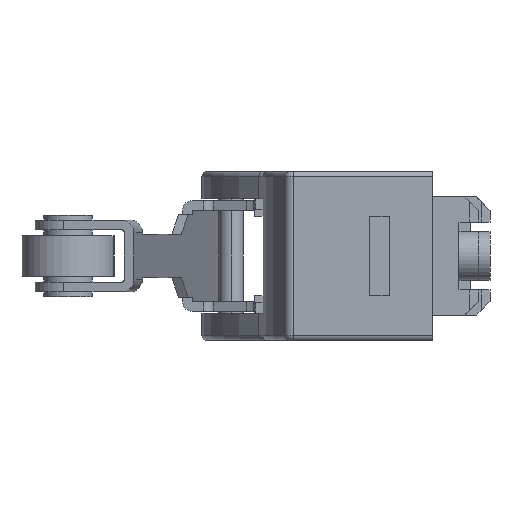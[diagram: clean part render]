
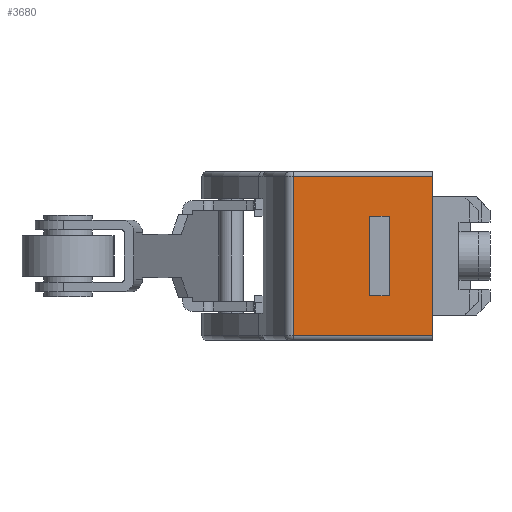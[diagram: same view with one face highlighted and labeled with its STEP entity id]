
A CAD part, left-side view. The second image highlights one B-rep face of the part: STEP entity #3680.
In plain terms, the highlighted planar face has unit normal (-1, 0, 0).
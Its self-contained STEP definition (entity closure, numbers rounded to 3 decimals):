
#3633 = ORIENTED_EDGE ( 'NONE', *, *, #3634, .T. ) ;
#3634 = EDGE_CURVE ( 'NONE', #3701, #3635, #6491, .T. ) ;
#3635 = VERTEX_POINT ( 'NONE', #6487 ) ;
#3636 = ORIENTED_EDGE ( 'NONE', *, *, #3637, .T. ) ;
#3637 = EDGE_CURVE ( 'NONE', #3635, #3697, #6486, .T. ) ;
#3680 = ADVANCED_FACE ( 'NONE', ( #6780, #6779 ), #6778, .F. ) ;
#3681 = EDGE_LOOP ( 'NONE', ( #3682, #3686, #3689, #3692 ) ) ;
#3682 = ORIENTED_EDGE ( 'NONE', *, *, #3683, .T. ) ;
#3683 = EDGE_CURVE ( 'NONE', #3684, #3685, #6735, .T. ) ;
#3684 = VERTEX_POINT ( 'NONE', #6731 ) ;
#3685 = VERTEX_POINT ( 'NONE', #6730 ) ;
#3686 = ORIENTED_EDGE ( 'NONE', *, *, #3687, .T. ) ;
#3687 = EDGE_CURVE ( 'NONE', #3685, #3688, #6729, .T. ) ;
#3688 = VERTEX_POINT ( 'NONE', #6725 ) ;
#3689 = ORIENTED_EDGE ( 'NONE', *, *, #3690, .F. ) ;
#3690 = EDGE_CURVE ( 'NONE', #3691, #3688, #6724, .T. ) ;
#3691 = VERTEX_POINT ( 'NONE', #6712 ) ;
#3692 = ORIENTED_EDGE ( 'NONE', *, *, #3693, .T. ) ;
#3693 = EDGE_CURVE ( 'NONE', #3691, #3684, #6711, .T. ) ;
#3694 = EDGE_LOOP ( 'NONE', ( #3695, #3699, #3633, #3636 ) ) ;
#3695 = ORIENTED_EDGE ( 'NONE', *, *, #3696, .T. ) ;
#3696 = EDGE_CURVE ( 'NONE', #3697, #3698, #6774, .T. ) ;
#3697 = VERTEX_POINT ( 'NONE', #6770 ) ;
#3698 = VERTEX_POINT ( 'NONE', #6769 ) ;
#3699 = ORIENTED_EDGE ( 'NONE', *, *, #3700, .T. ) ;
#3700 = EDGE_CURVE ( 'NONE', #3698, #3701, #6768, .T. ) ;
#3701 = VERTEX_POINT ( 'NONE', #6764 ) ;
#6483 = DIRECTION ( 'NONE',  ( 0., 0., 1. ) ) ;
#6484 = VECTOR ( 'NONE', #6483, 1000. ) ;
#6485 = CARTESIAN_POINT ( 'NONE',  ( -35.2, 2.7, 4.1 ) ) ;
#6486 = LINE ( 'NONE', #6485, #6484 ) ;
#6487 = CARTESIAN_POINT ( 'NONE',  ( -35.2, 2.7, -4.1 ) ) ;
#6488 = DIRECTION ( 'NONE',  ( 0., 1., 0. ) ) ;
#6489 = VECTOR ( 'NONE', #6488, 1000. ) ;
#6490 = CARTESIAN_POINT ( 'NONE',  ( -35.2, 2.7, -4.1 ) ) ;
#6491 = LINE ( 'NONE', #6490, #6489 ) ;
#6708 = DIRECTION ( 'NONE',  ( 0., 1., 0. ) ) ;
#6709 = VECTOR ( 'NONE', #6708, 1000. ) ;
#6710 = CARTESIAN_POINT ( 'NONE',  ( -35.2, 10.561, 8.2 ) ) ;
#6711 = LINE ( 'NONE', #6710, #6709 ) ;
#6712 = CARTESIAN_POINT ( 'NONE',  ( -35.2, -3.8, 8.2 ) ) ;
#6713 = DIRECTION ( 'NONE',  ( 0., 0., -1. ) ) ;
#6714 = VECTOR ( 'NONE', #6713, 1000. ) ;
#6715 = CARTESIAN_POINT ( 'NONE',  ( -35.2, -3.8, 8.7 ) ) ;
#6724 = LINE ( 'NONE', #6715, #6714 ) ;
#6725 = CARTESIAN_POINT ( 'NONE',  ( -35.2, -3.8, -8.2 ) ) ;
#6726 = DIRECTION ( 'NONE',  ( 0., -1., 0. ) ) ;
#6727 = VECTOR ( 'NONE', #6726, 1000. ) ;
#6728 = CARTESIAN_POINT ( 'NONE',  ( -35.2, 10.561, -8.2 ) ) ;
#6729 = LINE ( 'NONE', #6728, #6727 ) ;
#6730 = CARTESIAN_POINT ( 'NONE',  ( -35.2, 10.561, -8.2 ) ) ;
#6731 = CARTESIAN_POINT ( 'NONE',  ( -35.2, 10.561, 8.2 ) ) ;
#6732 = DIRECTION ( 'NONE',  ( 0., 0., -1. ) ) ;
#6733 = VECTOR ( 'NONE', #6732, 1000. ) ;
#6734 = CARTESIAN_POINT ( 'NONE',  ( -35.2, 10.561, 8.7 ) ) ;
#6735 = LINE ( 'NONE', #6734, #6733 ) ;
#6736 = DIRECTION ( 'NONE',  ( 0., 0., -1. ) ) ;
#6764 = CARTESIAN_POINT ( 'NONE',  ( -35.2, 0.7, -4.1 ) ) ;
#6765 = DIRECTION ( 'NONE',  ( 0., 0., -1. ) ) ;
#6766 = VECTOR ( 'NONE', #6765, 1000. ) ;
#6767 = CARTESIAN_POINT ( 'NONE',  ( -35.2, 0.7, 4.1 ) ) ;
#6768 = LINE ( 'NONE', #6767, #6766 ) ;
#6769 = CARTESIAN_POINT ( 'NONE',  ( -35.2, 0.7, 4.1 ) ) ;
#6770 = CARTESIAN_POINT ( 'NONE',  ( -35.2, 2.7, 4.1 ) ) ;
#6771 = DIRECTION ( 'NONE',  ( 0., -1., 0. ) ) ;
#6772 = VECTOR ( 'NONE', #6771, 1000. ) ;
#6773 = CARTESIAN_POINT ( 'NONE',  ( -35.2, 2.7, 4.1 ) ) ;
#6774 = LINE ( 'NONE', #6773, #6772 ) ;
#6775 = DIRECTION ( 'NONE',  ( 1., 0., 0. ) ) ;
#6776 = CARTESIAN_POINT ( 'NONE',  ( -35.2, 10.561, 8.7 ) ) ;
#6777 = AXIS2_PLACEMENT_3D ( 'NONE', #6776, #6775, #6736 ) ;
#6778 = PLANE ( 'NONE',  #6777 ) ;
#6779 = FACE_BOUND ( 'NONE', #3694, .T. ) ;
#6780 = FACE_OUTER_BOUND ( 'NONE', #3681, .T. ) ;
